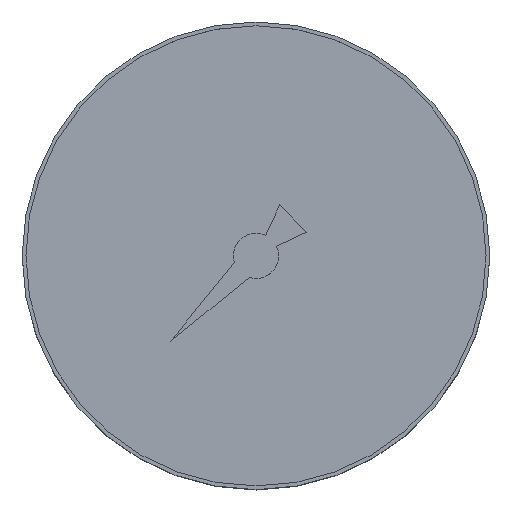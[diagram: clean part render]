
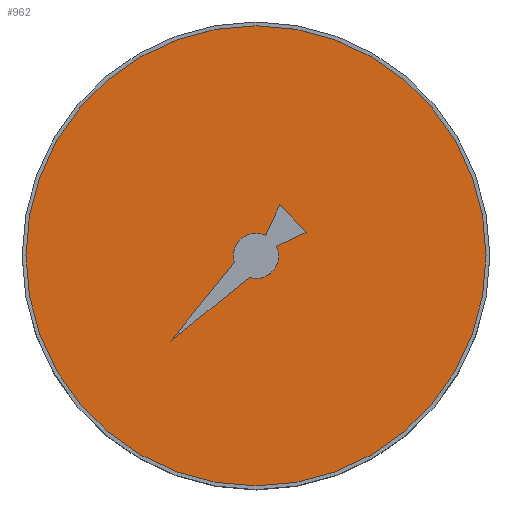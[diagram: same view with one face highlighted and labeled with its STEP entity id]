
A CAD part, top view. The second image highlights one B-rep face of the part: STEP entity #962.
In plain terms, the highlighted planar face has unit normal (0, 0, 1).
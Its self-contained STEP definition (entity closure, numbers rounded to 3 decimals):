
#275=CARTESIAN_POINT('',(0.,0.,46.));
#276=DIRECTION('',(0.,0.,1.));
#277=DIRECTION('',(0.,1.,0.));
#278=AXIS2_PLACEMENT_3D('',#275,#276,#277);
#284=CARTESIAN_POINT('',(0.,0.,46.));
#285=DIRECTION('',(0.,0.,-1.));
#286=DIRECTION('',(0.,1.,0.));
#287=AXIS2_PLACEMENT_3D('',#284,#285,#286);
#293=CARTESIAN_POINT('',(0.,0.,46.));
#294=DIRECTION('',(0.,0.,1.));
#295=DIRECTION('',(1.,0.,0.));
#296=AXIS2_PLACEMENT_3D('',#293,#294,#295);
#298=CARTESIAN_POINT('',(0.,0.,46.));
#299=DIRECTION('',(0.,0.,1.));
#300=DIRECTION('',(-1.,0.,0.));
#301=AXIS2_PLACEMENT_3D('',#298,#299,#300);
#453=CARTESIAN_POINT('',(0.,30.5,46.));
#454=CARTESIAN_POINT('',(0.,-30.5,46.));
#455=VERTEX_POINT('',#453);
#456=VERTEX_POINT('',#454);
#509=CARTESIAN_POINT('',(1.,0.,46.));
#510=CARTESIAN_POINT('',(-1.,0.,46.));
#511=VERTEX_POINT('',#509);
#512=VERTEX_POINT('',#510);
#947=CARTESIAN_POINT('',(0.,0.,46.));
#948=DIRECTION('',(0.,0.,1.));
#949=DIRECTION('',(0.,1.,0.));
#950=AXIS2_PLACEMENT_3D('',#947,#948,#949);
#951=PLANE('',#950);
#952=ORIENTED_EDGE('',*,*,#941,.T.);
#953=ORIENTED_EDGE('',*,*,#927,.F.);
#954=EDGE_LOOP('',(#952,#953));
#955=FACE_OUTER_BOUND('',#954,.F.);
#957=ORIENTED_EDGE('',*,*,#956,.T.);
#959=ORIENTED_EDGE('',*,*,#958,.T.);
#960=EDGE_LOOP('',(#957,#959));
#961=FACE_BOUND('',#960,.F.);
#279=CIRCLE('',#278,30.5);
#288=CIRCLE('',#287,30.5);
#297=CIRCLE('',#296,1.);
#302=CIRCLE('',#301,1.);
#927=EDGE_CURVE('',#455,#456,#279,.T.);
#941=EDGE_CURVE('',#455,#456,#288,.T.);
#956=EDGE_CURVE('',#511,#512,#297,.T.);
#958=EDGE_CURVE('',#512,#511,#302,.T.);
#962=ADVANCED_FACE('',(#955,#961),#951,.T.);
